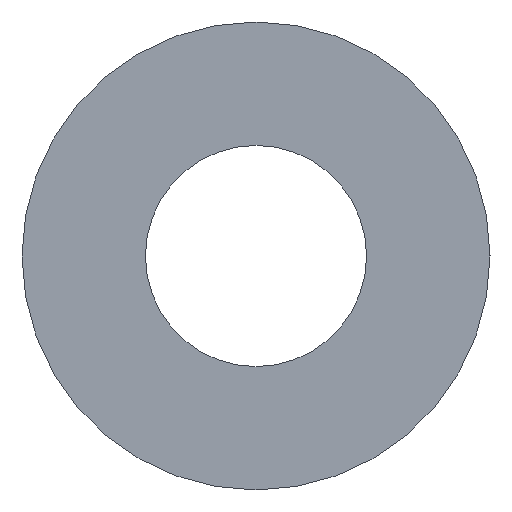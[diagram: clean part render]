
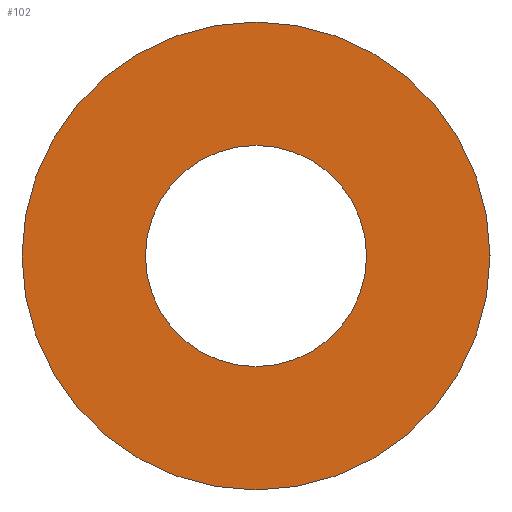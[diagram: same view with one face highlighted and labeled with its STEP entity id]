
A CAD part, left-side view. The second image highlights one B-rep face of the part: STEP entity #102.
In plain terms, the highlighted planar face has unit normal (-1, 0, 0).
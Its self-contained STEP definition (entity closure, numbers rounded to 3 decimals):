
#97=PLANE('',#192);
#102=ADVANCED_FACE('',(#116,#117),#97,.T.);
#116=FACE_BOUND('',#132,.T.);
#117=FACE_BOUND('',#133,.T.);
#132=EDGE_LOOP('',(#148));
#133=EDGE_LOOP('',(#149));
#148=ORIENTED_EDGE('',*,*,#171,.T.);
#149=ORIENTED_EDGE('',*,*,#172,.F.);
#163=VERTEX_POINT('',#245);
#164=VERTEX_POINT('',#247);
#171=EDGE_CURVE('',#163,#163,#179,.T.);
#172=EDGE_CURVE('',#164,#164,#180,.T.);
#179=CIRCLE('',#190,1.5);
#180=CIRCLE('',#191,3.175);
#190=AXIS2_PLACEMENT_3D('',#244,#213,#214);
#191=AXIS2_PLACEMENT_3D('',#246,#215,#216);
#192=AXIS2_PLACEMENT_3D('',#248,#217,#218);
#213=DIRECTION('',(1.,0.,0.));
#214=DIRECTION('',(0.,0.,-1.));
#215=DIRECTION('',(1.,0.,0.));
#216=DIRECTION('',(0.,0.,-1.));
#217=DIRECTION('',(-1.,0.,0.));
#218=DIRECTION('',(0.,0.,1.));
#244=CARTESIAN_POINT('',(0.,0.,0.));
#245=CARTESIAN_POINT('',(0.,0.,-1.5));
#246=CARTESIAN_POINT('',(0.,0.,0.));
#247=CARTESIAN_POINT('',(0.,0.,-3.175));
#248=CARTESIAN_POINT('',(0.,0.,3.175));
